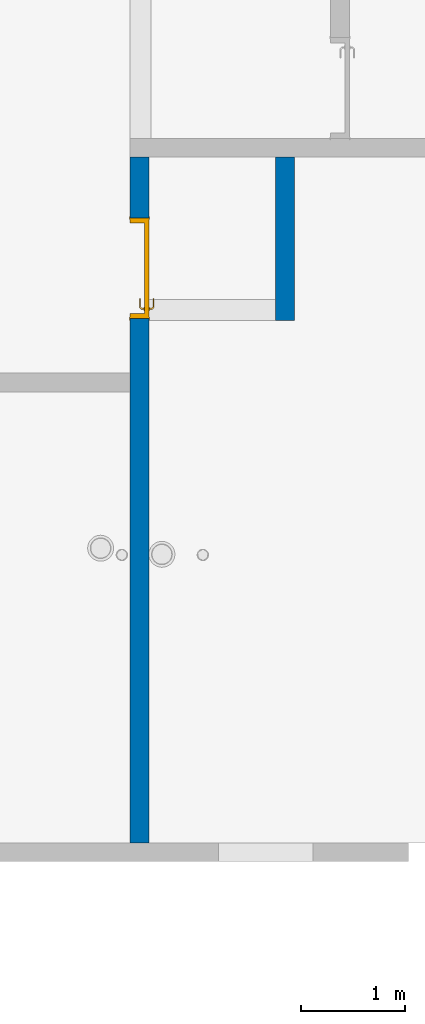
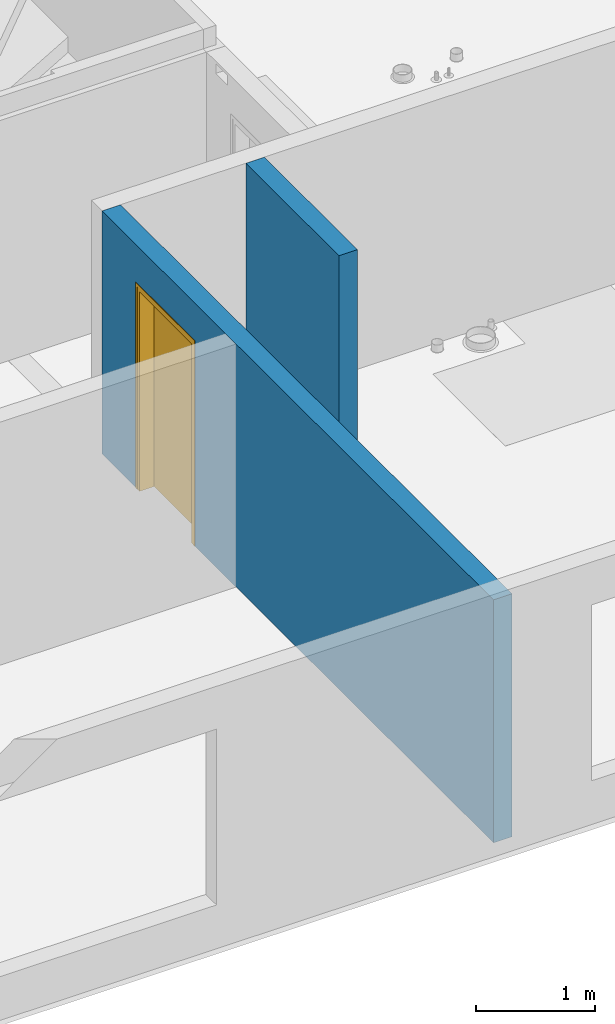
# One storey, part 15 of 30: 2 walls, 1 door, 1 opening.
"""IFC2X3 building model written with IfcOpenShell, lengths in centimetres."""

from ifc_helpers import new_model, entity, si_unit, converted_unit, derived_unit, direction, frame, frame_2d, origin, place, context, subcontext, project, spatial, rectangle, extrude, faceted_brep, source, transform, mapped, material, material_list, layer, layer_set, layer_usage, type_object, type_shapes, element, fill, save


model = new_model("IFC2X3")

# Units and contexts
model_context = context("Model", 3, precision=0.001, world=origin(), true_north=direction((6.12303176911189e-17, 1.0)))
body_context = subcontext(model_context, "Body", "Model", "MODEL_VIEW")
ifc_project = project(units=[si_unit("LENGTHUNIT", "METRE", prefix="CENTI"), si_unit("AREAUNIT", "SQUARE_METRE"), si_unit("VOLUMEUNIT", "CUBIC_METRE"), converted_unit("PLANEANGLEUNIT", "DEGREE", entity("IfcRatioMeasure", 0.0174532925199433), si_unit("PLANEANGLEUNIT", "RADIAN"), dimensions=[0, 0, 0, 0, 0, 0, 0]), si_unit("MASSUNIT", "GRAM", prefix="KILO"), derived_unit("MASSDENSITYUNIT", [(si_unit("MASSUNIT", "GRAM", prefix="KILO"), 1), (si_unit("LENGTHUNIT", "METRE"), -3)]), si_unit("TIMEUNIT", "SECOND"), si_unit("FREQUENCYUNIT", "HERTZ"), si_unit("THERMODYNAMICTEMPERATUREUNIT", "DEGREE_CELSIUS"), derived_unit("THERMALTRANSMITTANCEUNIT", [(si_unit("MASSUNIT", "GRAM", prefix="KILO"), 1), (si_unit("THERMODYNAMICTEMPERATUREUNIT", "KELVIN"), -1), (si_unit("TIMEUNIT", "SECOND"), -3)]), derived_unit("VOLUMETRICFLOWRATEUNIT", [(si_unit("LENGTHUNIT", "METRE"), 3), (si_unit("TIMEUNIT", "SECOND"), -1)]), si_unit("ELECTRICCURRENTUNIT", "AMPERE"), si_unit("ELECTRICVOLTAGEUNIT", "VOLT"), si_unit("POWERUNIT", "WATT"), si_unit("FORCEUNIT", "NEWTON"), si_unit("ILLUMINANCEUNIT", "LUX"), si_unit("LUMINOUSFLUXUNIT", "LUMEN"), si_unit("LUMINOUSINTENSITYUNIT", "CANDELA"), derived_unit("USERDEFINED", [(si_unit("MASSUNIT", "GRAM", prefix="KILO"), -1), (si_unit("LENGTHUNIT", "METRE"), -2), (si_unit("TIMEUNIT", "SECOND"), 3), (si_unit("LUMINOUSFLUXUNIT", "LUMEN"), 1)]), derived_unit("LINEARVELOCITYUNIT", [(si_unit("LENGTHUNIT", "METRE"), 1), (si_unit("TIMEUNIT", "SECOND"), -1)]), si_unit("PRESSUREUNIT", "PASCAL"), derived_unit("USERDEFINED", [(si_unit("LENGTHUNIT", "METRE"), -2), (si_unit("MASSUNIT", "GRAM", prefix="KILO"), 1), (si_unit("TIMEUNIT", "SECOND"), -2)])], contexts=[model_context])

# Site, building, storey
site_placement = place(None, origin())
site = spatial("IfcSite", under=ifc_project, at=site_placement, Name="Default", CompositionType="ELEMENT")
building_placement = place(site_placement, origin())
building = spatial("IfcBuilding", under=site, at=building_placement, Name="CAGE 03", CompositionType="ELEMENT")
storey_placement = place(building_placement, frame((0.0, 0.0, 610.0)))
storey = spatial("IfcBuildingStorey", under=building, at=storey_placement, Name="R+2", CompositionType="ELEMENT", Elevation=610.0)

# Wall, opening, door
ifc_material_1 = material(Name="Béton, C25/30")
ifc_layer = layer(ifc_material_1, 18.0)
ifc_layer_set = layer_set([ifc_layer], Name="Mur de base:Voile BA 18")
ifc_layer_usage_1 = layer_usage(ifc_layer_set, "AXIS2", "POSITIVE", -9.0)
wall_type = type_object("IfcWallType", Name="Mur de base:Voile BA 18", PredefinedType="STANDARD", material=ifc_layer_set)
wall_1_placement = place(storey_placement, frame((10306.3658201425, 4474.66066607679, 0.0), z_axis=(0.0, 0.0, 1.0), x_axis=(0.0, -1.0, 0.0)))
wall_1 = element("IfcWallStandardCase", 1, at=wall_1_placement, inside=storey, type_object=wall_type, material=ifc_layer_usage_1, Name="Mur de base:Voile BA 18", ObjectType="Mur de base:Voile BA 18", context=body_context, shape_type="SweptSolid", body=[
    extrude(rectangle(XDim=660.000000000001, YDim=17.9999999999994, at=frame_2d((330.000000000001, 4.2277292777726e-13), x_axis=(-1.0, 0.0))), origin(), (0.0, 0.0, 1.0), 250.0),
])
opening_placement = place(wall_1_placement, frame((58.5000000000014, -9.0, 0.0)))
opening = element("IfcOpeningElement", 2, at=opening_placement, cuts=wall_1, Name="Int. Simple:HB93:1", ObjectType="Opening", context=body_context, shape_type="SweptSolid", body=[
    extrude(rectangle(XDim=210.000000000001, YDim=96.9999999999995, at=frame_2d((105.000000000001, 48.4999999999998), x_axis=(1.0, 0.0))), frame((0.0, 0.0, 0.0), z_axis=(0.0, 1.0, 0.0), x_axis=(0.0, 0.0, 1.0)), (0.0, 0.0, 1.0), 18.0),
])
ifc_material_2 = material(Name="Finition Peinture - Blanc satiné")
ifc_material_3 = material(Name="Bois - Panneau de porte")
ifc_material_4 = material(Name="Bois - Cadre de porte")
ifc_material_list_1 = material_list([ifc_material_2, ifc_material_3, ifc_material_4])
ifc_material_list_2 = material_list([ifc_material_2, ifc_material_3, ifc_material_4])
door_style = type_object("IfcDoorStyle", Name="HB93", ConstructionType="NOTDEFINED", OperationType="SINGLE_SWING_LEFT", ParameterTakesPrecedence=False, Sizeable=False, material=ifc_material_list_2)
shared_shape = source(origin(), body_context, "Body", "Brep", [
    faceted_brep([(10.5352761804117, -0.500000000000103, 86.6003983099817), (11.5000000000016, -0.500000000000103, 87.0), (11.5000000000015, -0.500000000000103, 108.0), (10.5352761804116, -0.500000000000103, 108.399601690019), (9.50000000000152, -0.500000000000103, 108.535898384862), (8.46472381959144, -0.500000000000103, 108.399601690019), (7.50000000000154, -0.500000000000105, 108.0), (7.50000000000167, -0.500000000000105, 87.0), (8.46472381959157, -0.500000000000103, 86.6003983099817), (9.50000000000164, -0.500000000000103, 86.464101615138), (10.5352761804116, 0.0, 108.399601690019), (11.5000000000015, 0.0, 108.0), (11.5000000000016, 0.0, 87.0), (10.5352761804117, 0.0, 86.6003983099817), (9.50000000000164, 0.0, 86.464101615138), (8.46472381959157, 0.0, 86.6003983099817), (7.50000000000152, 0.0, 87.0), (7.50000000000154, 0.0, 108.0), (8.46472381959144, 0.0, 108.399601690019), (9.50000000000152, 0.0, 108.535898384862)], [[[0, 1, 2, 3, 4, 5, 6, 7, 8, 9]], [[10, 11, 12, 13, 14, 15, 16, 17, 18, 19]], [[16, 15, 8, 7]], [[8, 15, 14, 9]], [[14, 13, 0, 9]], [[13, 12, 1, 0]], [[2, 1, 12, 11]], [[11, 10, 3, 2]], [[3, 10, 19, 4]], [[19, 18, 5, 4]], [[18, 17, 6, 5]], [[7, 6, 17, 16]]]),
    faceted_brep([(10.5352761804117, 4.0, 86.6003983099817), (11.5000000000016, 4.0, 87.0), (11.5000000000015, 4.0, 108.0), (10.5352761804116, 4.0, 108.399601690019), (9.50000000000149, 4.0, 108.535898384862), (8.46472381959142, 4.0, 108.399601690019), (7.50000000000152, 4.0, 108.0), (7.50000000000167, 4.0, 87.0), (8.46472381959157, 4.0, 86.6003983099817), (9.50000000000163, 4.0, 86.464101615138), (10.5352761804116, 4.49999999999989, 108.399601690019), (11.5000000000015, 4.4999999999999, 108.0), (11.5000000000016, 4.4999999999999, 87.0), (10.5352761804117, 4.49999999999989, 86.6003983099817), (9.50000000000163, 4.49999999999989, 86.464101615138), (8.46472381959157, 4.49999999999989, 86.6003983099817), (7.50000000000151, 4.49999999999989, 87.0), (7.50000000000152, 4.49999999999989, 108.0), (8.46472381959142, 4.49999999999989, 108.399601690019), (9.50000000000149, 4.49999999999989, 108.535898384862)], [[[0, 1, 2, 3, 4, 5, 6, 7, 8, 9]], [[10, 11, 12, 13, 14, 15, 16, 17, 18, 19]], [[11, 10, 3, 2]], [[3, 10, 19, 4]], [[19, 18, 5, 4]], [[18, 17, 6, 5]], [[7, 6, 17, 16]], [[16, 15, 8, 7]], [[8, 15, 14, 9]], [[14, 13, 0, 9]], [[13, 12, 1, 0]], [[2, 1, 12, 11]]]),
    faceted_brep([(9.29747013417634, -0.500000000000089, 100.778044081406), (9.70252986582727, -0.500000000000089, 100.778044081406), (10.1000000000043, -0.500000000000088, 100.699999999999), (10.1000000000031, -0.500000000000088, 99.3000000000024), (9.70252986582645, -0.500000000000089, 99.2219559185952), (9.29747013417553, -0.500000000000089, 99.221955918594), (8.89999999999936, -0.500000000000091, 99.2999999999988), (8.89999999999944, -0.500000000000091, 100.7), (8.89999999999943, -3.26509507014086, 100.7), (9.29747013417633, -3.10045754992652, 100.778044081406), (10.9023585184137, -4.70534593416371, 100.778044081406), (11.0701397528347, -4.30028620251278, 100.778044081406), (9.70252986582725, -2.93267631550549, 100.778044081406), (10.1000000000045, -2.76803879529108, 100.7), (10.1000000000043, -2.76803879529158, 99.3000000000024), (9.70252986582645, -2.93267631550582, 99.2219559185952), (11.0701397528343, -4.30028620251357, 99.2219559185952), (10.9023585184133, -4.70534593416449, 99.221955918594), (9.29747013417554, -3.10045754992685, 99.221955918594), (8.89999999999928, -3.26509507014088, 99.2999999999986), (10.7377209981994, -5.1028160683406, 100.7), (11.2347772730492, -3.90281606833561, 100.7), (11.2347772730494, -3.90281606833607, 99.3000000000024), (10.7377209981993, -5.10281606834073, 99.2999999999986), (19.5018640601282, -5.1028160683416, 99.2999999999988), (19.5018640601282, -4.70534593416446, 99.221955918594), (19.5018640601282, -4.30028620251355, 99.2219559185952), (19.5018640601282, -3.90281606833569, 99.3000000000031), (19.5018640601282, -3.90281606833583, 100.7), (19.5018640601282, -4.30028620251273, 100.778044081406), (19.5018640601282, -4.70534593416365, 100.778044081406), (19.5018640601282, -5.10281606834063, 100.699999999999), (14.7307697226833, -5.10281606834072, 100.7), (15.28600190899, -4.5028160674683, 100.78786867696), (15.3683206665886, -3.9028160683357, 100.7), (15.3683206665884, -3.90281606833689, 99.3000000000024), (15.2860018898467, -4.50281607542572, 99.2121313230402), (14.7307700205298, -5.10281606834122, 99.2999999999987)], [[[0, 1, 2, 3, 4, 5, 6, 7]], [[8, 9, 0, 7]], [[9, 10, 11, 12, 1, 0]], [[12, 13, 2, 1]], [[3, 2, 13, 14]], [[14, 15, 4, 3]], [[15, 16, 17, 18, 5, 4]], [[18, 19, 6, 5]], [[7, 6, 19, 8]], [[20, 10, 9, 8]], [[11, 21, 13, 12]], [[14, 13, 21, 22]], [[22, 16, 15, 14]], [[17, 23, 19, 18]], [[8, 19, 23, 20]], [[24, 25, 26, 27, 28, 29, 30, 31]], [[32, 30, 33]], [[31, 30, 32]], [[10, 20, 32]], [[33, 34, 11]], [[21, 11, 34]], [[34, 29, 28]], [[30, 29, 33]], [[29, 34, 33]], [[10, 32, 33]], [[10, 33, 11]], [[22, 21, 34, 28, 27, 35]], [[35, 26, 36]], [[37, 36, 25]], [[22, 35, 16]], [[35, 27, 26]], [[24, 37, 25]], [[23, 17, 37]], [[37, 17, 36]], [[17, 16, 36]], [[16, 35, 36]], [[25, 36, 26]], [[20, 23, 37, 24, 31, 32]]]),
    faceted_brep([(9.29747013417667, 4.49999999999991, 100.778044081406), (8.89999999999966, 4.49999999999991, 100.7), (8.89999999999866, 4.49999999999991, 99.2999999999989), (9.2974701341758, 4.49999999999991, 99.221955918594), (9.70252986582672, 4.49999999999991, 99.2219559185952), (10.1000000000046, 4.49999999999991, 99.3000000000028), (10.1000000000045, 4.49999999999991, 100.7), (9.70252986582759, 4.49999999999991, 100.778044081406), (10.1000000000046, 6.7485204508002, 99.3000000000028), (10.1000000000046, 6.74852045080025, 100.7), (9.70252986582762, 6.91315797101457, 100.778044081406), (11.0838906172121, 8.29451872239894, 100.778044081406), (10.9161093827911, 8.69957845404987, 100.778044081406), (9.29747013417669, 7.0809392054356, 100.778044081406), (8.89999999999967, 7.24557672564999, 100.7), (8.89999999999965, 7.24557672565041, 99.2999999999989), (9.29747013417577, 7.08093920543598, 99.221955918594), (10.9161093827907, 8.69957845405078, 99.221955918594), (11.0838906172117, 8.29451872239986, 99.2219559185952), (9.7025298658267, 6.91315797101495, 99.2219559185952), (11.2485281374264, 7.89704858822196, 99.3000000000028), (11.2485281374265, 7.89704858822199, 100.7), (10.7514718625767, 9.0970485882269, 100.7), (10.751471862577, 9.0970485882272, 99.2999999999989), (19.504578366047, 7.89704858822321, 99.3000000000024), (19.504578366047, 8.29451872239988, 99.2219559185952), (19.504578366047, 8.6995784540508, 99.221955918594), (19.504578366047, 9.09704858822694, 99.2999999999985), (19.504578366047, 9.09704858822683, 100.7), (19.504578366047, 8.69957845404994, 100.778044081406), (19.504578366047, 8.29451872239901, 100.778044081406), (19.504578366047, 7.89704858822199, 100.7), (15.3765520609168, 7.89704858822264, 99.3000000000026), (15.3765532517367, 7.89704858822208, 100.7), (15.294234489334, 8.49704858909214, 100.78786867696), (14.7445205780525, 9.09704858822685, 100.7), (14.7445204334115, 9.09704858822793, 99.2999999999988), (15.2942345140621, 8.49704858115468, 99.2121313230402)], [[[0, 1, 2, 3, 4, 5, 6, 7]], [[6, 5, 8, 9]], [[9, 10, 7, 6]], [[10, 11, 12, 13, 0, 7]], [[13, 14, 1, 0]], [[2, 1, 14, 15]], [[15, 16, 3, 2]], [[16, 17, 18, 19, 4, 3]], [[19, 8, 5, 4]], [[9, 8, 20, 21]], [[21, 11, 10, 9]], [[12, 22, 14, 13]], [[15, 14, 22, 23]], [[23, 17, 16, 15]], [[18, 20, 8, 19]], [[24, 25, 26, 27, 28, 29, 30, 31]], [[21, 20, 32, 24, 31, 33]], [[33, 30, 34]], [[35, 34, 29]], [[21, 33, 11]], [[33, 31, 30]], [[28, 35, 29]], [[22, 12, 35]], [[35, 12, 34]], [[12, 11, 34]], [[11, 33, 34]], [[29, 34, 30]], [[22, 35, 28, 27, 36, 23]], [[36, 26, 37]], [[27, 26, 36]], [[17, 23, 36]], [[37, 32, 18]], [[20, 18, 32]], [[32, 25, 24]], [[26, 25, 37]], [[25, 32, 37]], [[17, 36, 37]], [[17, 37, 18]]]),
    faceted_brep([(3.50000000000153, 4.0, 206.5), (93.5000000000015, 4.0, 206.5), (93.5000000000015, 4.0, 0.0), (3.50000000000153, 4.0, 0.0), (3.50000000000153, 0.0, 206.5), (3.50000000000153, 0.0, 0.0), (93.5000000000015, 0.0, 0.0), (93.5000000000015, 0.0, 206.5)], [[[0, 1, 2, 3]], [[4, 5, 6, 7]], [[1, 0, 4, 7]], [[2, 1, 7, 6]], [[3, 2, 6, 5]], [[0, 3, 5, 4]]]),
    faceted_brep([(0.0, 0.0, 0.0), (0.0, 18.0, 0.0), (5.0, 18.0, 0.0), (5.0, 4.0, 0.0), (3.50000000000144, 4.0, 0.0), (3.50000000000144, 0.0, 0.0), (0.0, 0.0, 210.0), (0.0, 18.0, 210.0), (97.0, 18.0, 210.0), (97.0, 18.0, 0.0), (92.0, 18.0, 0.0), (92.0, 18.0, 205.0), (5.0, 18.0, 205.0), (5.0, 4.0, 205.0), (92.0, 4.0, 205.0), (92.0, 4.0, 0.0), (93.4999999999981, 4.0, 0.0), (93.4999999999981, 4.0, 206.5), (3.50000000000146, 4.0, 206.5), (3.50000000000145, 0.0, 206.5), (93.4999999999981, 0.0, 206.5), (93.4999999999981, 0.0, 0.0), (97.0, 0.0, 0.0), (97.0, 0.0, 210.0)], [[[0, 1, 2, 3, 4, 5]], [[1, 0, 6, 7]], [[2, 1, 7, 8, 9, 10, 11, 12]], [[3, 2, 12, 13]], [[4, 3, 13, 14, 15, 16, 17, 18]], [[5, 4, 18, 19]], [[0, 5, 19, 20, 21, 22, 23, 6]], [[8, 23, 22, 9]], [[22, 21, 16, 15, 10, 9]], [[14, 11, 10, 15]], [[20, 17, 16, 21]], [[7, 6, 23, 8]], [[13, 12, 11, 14]], [[19, 18, 17, 20]]]),
    faceted_brep([(1.5, 18.0, 0.0), (-1.49999999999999, 18.0, 0.0), (-1.49999999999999, 18.5000000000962, 0.0), (1.5, 18.5000000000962, 0.0), (1.5, 18.0, 208.500000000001), (95.4999999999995, 18.0, 208.500000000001), (95.4999999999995, 18.0, 0.0), (98.4999999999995, 18.0, 0.0), (98.4999999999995, 18.0, 211.500000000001), (-1.49999999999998, 18.0, 211.500000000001), (-1.49999999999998, 18.5000000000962, 211.500000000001), (98.4999999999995, 18.5000000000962, 211.500000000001), (98.4999999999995, 18.5000000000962, 0.0), (95.4999999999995, 18.5000000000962, 0.0), (95.4999999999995, 18.5000000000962, 208.500000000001), (1.50000000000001, 18.5000000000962, 208.500000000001)], [[[0, 1, 2, 3]], [[1, 0, 4, 5, 6, 7, 8, 9]], [[2, 1, 9, 10]], [[3, 2, 10, 11, 12, 13, 14, 15]], [[0, 3, 15, 4]], [[6, 13, 12, 7]], [[5, 14, 13, 6]], [[11, 8, 7, 12]], [[10, 9, 8, 11]], [[4, 15, 14, 5]]]),
    faceted_brep([(-1.49999999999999, -0.5, 0.0), (1.5, -0.5, 0.0), (1.5, -0.5, 208.500000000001), (95.4999999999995, -0.5, 208.500000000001), (95.4999999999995, -0.5, 0.0), (98.4999999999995, -0.5, 0.0), (98.4999999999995, -0.5, 211.500000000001), (-1.49999999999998, -0.5, 211.500000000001), (-1.49999999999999, 0.0, 0.0), (-1.49999999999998, 0.0, 211.500000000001), (1.5, 0.0, 0.0), (98.4999999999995, 0.0, 211.500000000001), (98.4999999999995, 0.0, 0.0), (95.4999999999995, 0.0, 0.0), (95.4999999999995, 0.0, 208.500000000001), (1.50000000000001, 0.0, 208.500000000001)], [[[0, 1, 2, 3, 4, 5, 6, 7]], [[8, 0, 7, 9]], [[10, 8, 9, 11, 12, 13, 14, 15]], [[1, 10, 15, 2]], [[3, 14, 13, 4]], [[11, 6, 5, 12]], [[9, 7, 6, 11]], [[2, 15, 14, 3]], [[4, 13, 12, 5]], [[1, 0, 8, 10]]]),
])
type_shapes(door_style, [shared_shape])
door_placement = place(opening_placement, frame((97.0, 18.0, 0.0), z_axis=(0.0, 0.0, 1.0), x_axis=(-1.0, 0.0, 0.0)))
door = element("IfcDoor", 3, at=door_placement, inside=storey, type_object=door_style, material=ifc_material_list_1, Name="Int. Simple:HB93", ObjectType="HB93", OverallHeight=210.000000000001, OverallWidth=96.9999999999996, context=body_context, shape_type="MappedRepresentation", body=[
    mapped(shared_shape, transform((0.0, 0.0, 0.0), scale=1.0)),
])
fill(opening, door)

# Wall
ifc_layer_usage_2 = layer_usage(ifc_layer_set, "AXIS2", "POSITIVE", -9.0)
wall_2_placement = place(storey_placement, frame((10446.3658201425, 4474.66066607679, 0.0), z_axis=(0.0, 0.0, 1.0), x_axis=(0.0, -1.0, 0.0)))
element("IfcWallStandardCase", 4, at=wall_2_placement, inside=storey, type_object=wall_type, material=ifc_layer_usage_2, Name="Mur de base:Voile BA 18", ObjectType="Mur de base:Voile BA 18", context=body_context, shape_type="SweptSolid", body=[
    extrude(rectangle(XDim=157.0, YDim=17.9999999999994, at=frame_2d((78.4999999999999, 1.63424829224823e-13), x_axis=(-1.0, 0.0))), origin(), (0.0, 0.0, 1.0), 250.0),
])

save(model, "model.ifc")
